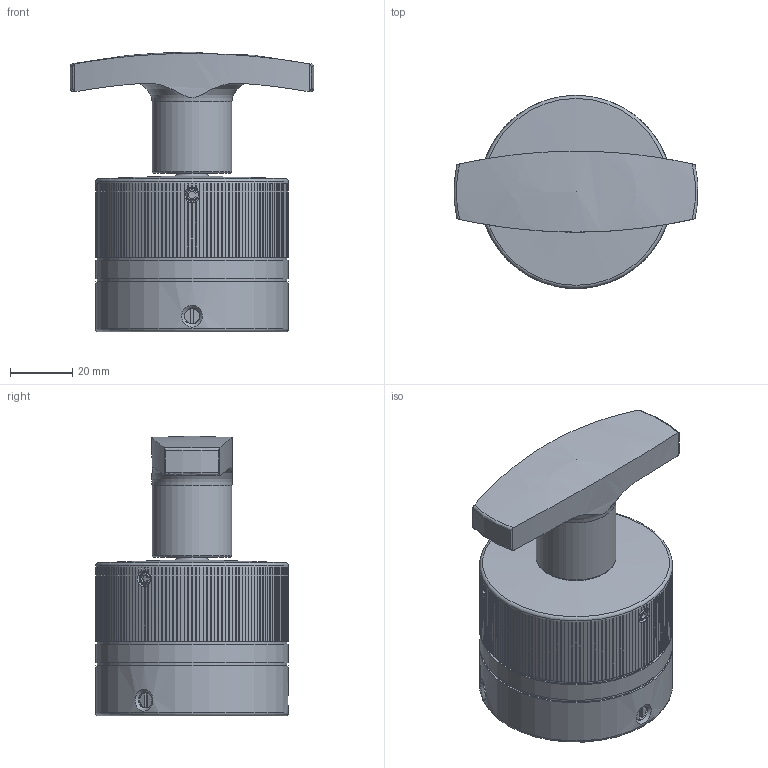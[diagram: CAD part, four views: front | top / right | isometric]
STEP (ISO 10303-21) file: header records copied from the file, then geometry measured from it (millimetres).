
FILE_DESCRIPTION( ( 'Unknown' ), '1' );
FILE_NAME( 'F:/JAKOB-STEP+IGES-Dateien/STEP-Dateien/MCA-T/MCA-T - M10.stp', 'Unknown', ( 'Unknown' ), ( 'Unknown' ), 'PSStep 10.1', 'Unknown', ' ' );
FILE_SCHEMA( ( 'AUTOMOTIVE_DESIGN { 1 0 10303 214 1 1 1 1 }' ) );
Length unit declared in the file: millimetre
Products named in the file (1): 46309588
Bounding box: 78.29 x 62 x 89.85 mm (x, y, z)
Volume: 178524.7 mm3; surface area: 25534.2 mm2
Topology: 1 solids, 5 shells, 497 faces, 1413 edges, 938 vertices
Faces by surface type: cylinder 232, plane 218, cone 30, torus 11, sphere 6
Full cylindrical faces by diameter (mm): 3.5 x3, 4.1 x3, 4.242 x3, 5 x7, 8.5 x1, 9.4 x1, 10.106 x2, 15 x1, 25.7 x1, 30 x1, 61 x2, 62 x3
Entity records: 21269 total; most frequent: CARTESIAN_POINT 4312, DIRECTION 2977, ORIENTED_EDGE 2620, EDGE_CURVE 1310, AXIS2_PLACEMENT_3D 1266, VERTEX_POINT 899, CIRCLE 763, EDGE_LOOP 567
